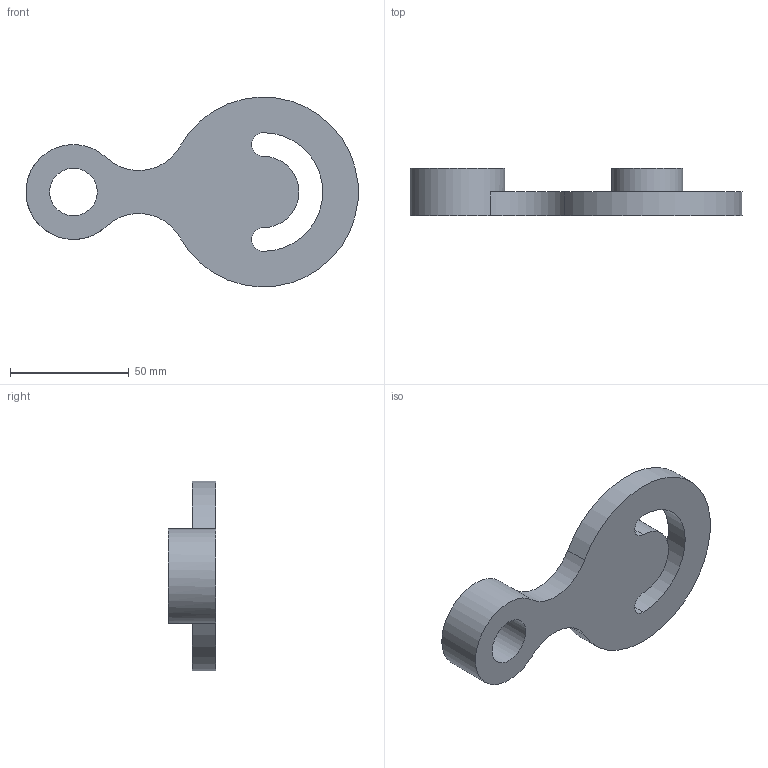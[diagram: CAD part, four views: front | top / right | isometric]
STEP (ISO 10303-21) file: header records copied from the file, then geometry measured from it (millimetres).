
FILE_DESCRIPTION(/* description */ (''),/* implementation_level */ '2;1');
FILE_NAME(/* name */ 'E:\OneDrive\Desktop\HGC_Tangency_04_2021\3D CAD Models\Task_7_HGC_Tangency_v1.stp',/* time_stamp */ '2021-04-10T20:31:41+01:00',/* author */ ('hunte'),/* organization */ (''),/* preprocessor_version */ 'ST-DEVELOPER v18.1',/* originating_system */ 'Autodesk Inventor 2020',/* authorisation */ '');
FILE_SCHEMA (('AUTOMOTIVE_DESIGN { 1 0 10303 214 3 1 1 }'));
Length unit declared in the file: millimetre
Products named in the file (1): Task_7_HGC_Tangency_v1
Bounding box: 139.84 x 20 x 79.92 mm (x, y, z)
Volume: 73722.2 mm3; surface area: 20242.2 mm2
Topology: 1 solids, 1 shells, 13 faces, 35 edges, 24 vertices
Faces by surface type: cylinder 9, plane 4
Full cylindrical faces by diameter (mm): 20 x1, 30 x1, 40 x1
Entity records: 478 total; most frequent: DIRECTION 87, CARTESIAN_POINT 73, ORIENTED_EDGE 70, AXIS2_PLACEMENT_3D 38, EDGE_CURVE 35, CIRCLE 24, VERTEX_POINT 24, EDGE_LOOP 17
